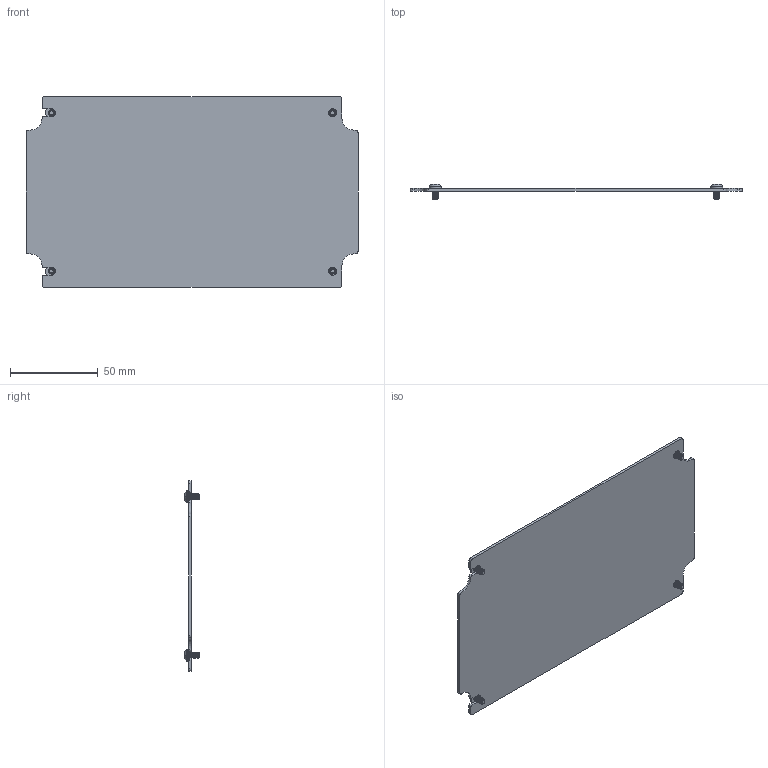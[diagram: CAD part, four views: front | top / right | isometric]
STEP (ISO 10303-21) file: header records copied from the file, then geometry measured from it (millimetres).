
FILE_DESCRIPTION (( 'STEP AP214' ), '1' );
FILE_NAME ('AN-22K.step', '2026-09-17T19:29:40', ( '' ), ( '' ), 'SwSTEP 2.0', 'SolidWorks 2026', '' );
FILE_SCHEMA (( 'AUTOMOTIVE_DESIGN' ));
Length unit declared in the file: inch
Products named in the file (3): AN-22K; SCREWS-050; AN-22-P_DEFAULT
Assembly tree (5 placements, depth 2):
  AN-22K
    AN-22-P_DEFAULT
    SCREWS-050  x4
Bounding box: 188.8 x 8.8 x 108.5 mm (x, y, z)
Volume: 30497.2 mm3; surface area: 41226.2 mm2
Topology: 5 solids, 5 shells, 1382 faces, 3348 edges, 1972 vertices
Faces by surface type: bspline 736, cylinder 334, plane 120, sphere 96, cone 80, torus 16
Entity records: 17796 total; most frequent: CARTESIAN_POINT 10133, ORIENTED_EDGE 1850, DIRECTION 1117, EDGE_CURVE 925, VERTEX_POINT 553, B_SPLINE_CURVE_WITH_KNOTS 415, AXIS2_PLACEMENT_3D 406, EDGE_LOOP 382
